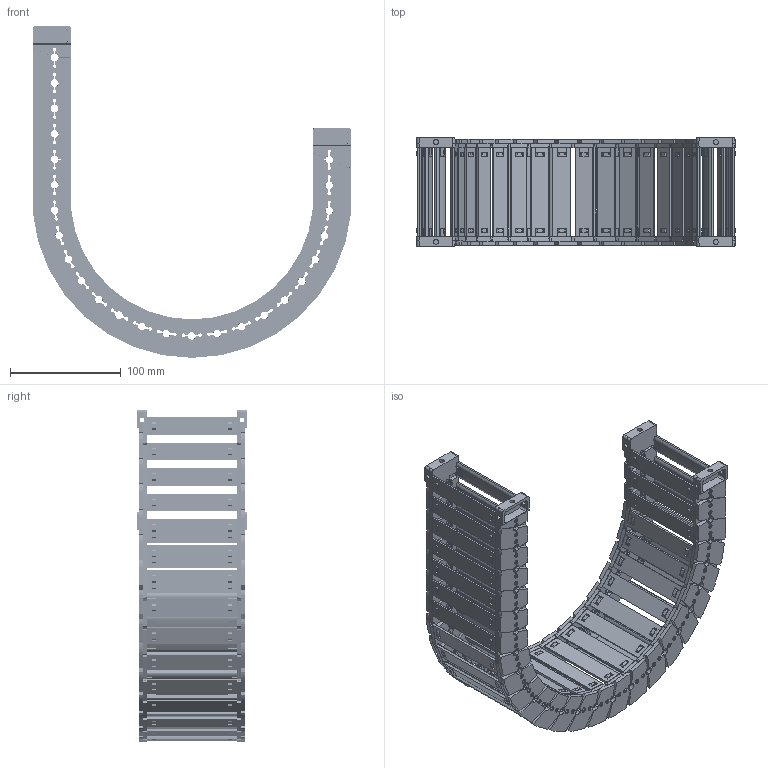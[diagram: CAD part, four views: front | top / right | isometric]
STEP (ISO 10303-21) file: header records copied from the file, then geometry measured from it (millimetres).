
FILE_DESCRIPTION((''),'2;1');
FILE_NAME('JY-28X80-R125_ASM','2026-03-25T20:04:31',('admin'),(''),'CREO PARAMETRIC BY PTC INC, 2021023','CREO PARAMETRIC BY PTC INC, 2021023','');
FILE_SCHEMA(('CONFIG_CONTROL_DESIGN'));
Length unit declared in the file: millimetre
Products named in the file (11): 28XL-L; 25-35XL-YP; 28XL-R; ASM0001_ASM; 28-LTT-A-L; 28-LTT-A-R; 28XL-LTT-A_ASM; 28-LTT-B-L; 28-LTT-B-R; 28XL-LTT-B_ASM; JY-28X80-R125_ASM
Assembly tree (38 placements, depth 3):
  JY-28X80-R125_ASM
    ASM0001_ASM  x24
      28XL-L
      25-35XL-YP
      28XL-R
    28XL-LTT-A_ASM
      28-LTT-A-L
      25-35XL-YP  x2
      28-LTT-A-R
    28XL-LTT-B_ASM
      28-LTT-B-L
      25-35XL-YP  x2
      28-LTT-B-R
Bounding box: 287.57 x 99 x 299.79 mm (x, y, z)
Volume: 476350.5 mm3; surface area: 343590.4 mm2
Topology: 104 solids, 104 shells, 8438 faces, 25084 edges, 16750 vertices
Faces by surface type: plane 5532, cone 1522, cylinder 1210, bspline 174
Entity records: 29143 total; most frequent: CARTESIAN_POINT 9496, ORIENTED_EDGE 4352, DIRECTION 3667, EDGE_CURVE 2176, VERTEX_POINT 1454, VECTOR 1365, LINE 1365, AXIS2_PLACEMENT_3D 1151
